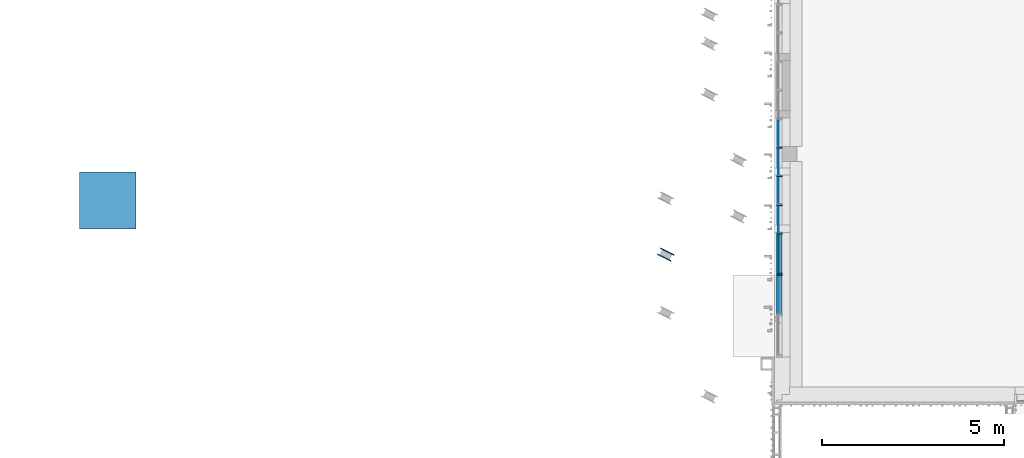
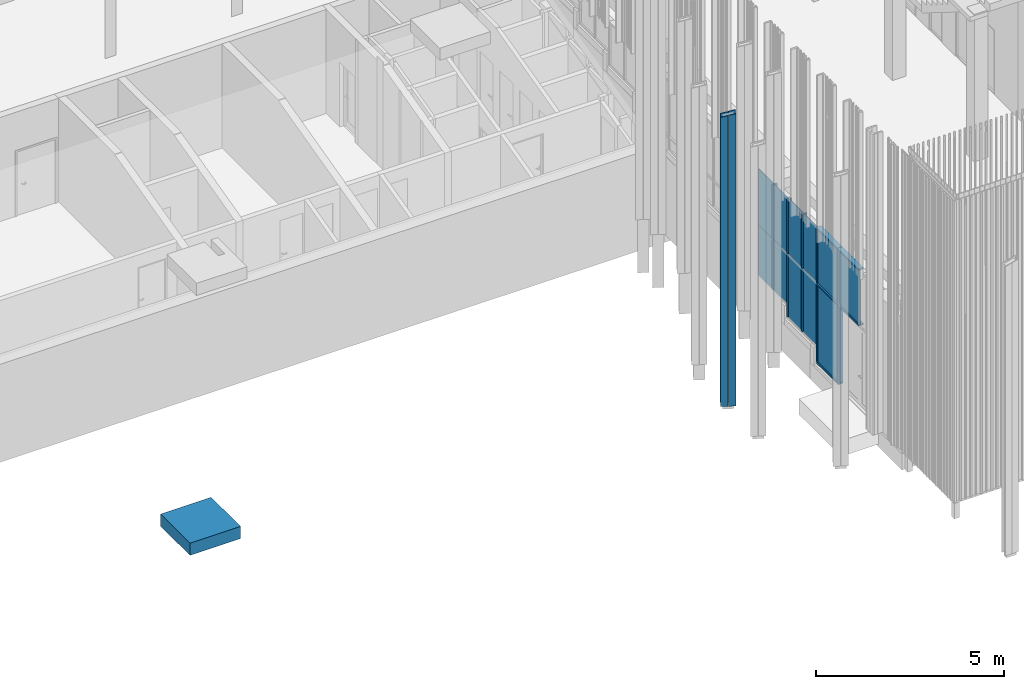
# One storey, part 30 of 390: 31 discrete accessories, 1 element without a shape of its own.
"""IFC2X3 building model written with IfcOpenShell, lengths in millimetres."""

from ifc_helpers import new_model, entity, si_unit, converted_unit, derived_unit, money_unit, direction, frame, origin_with_axes, place, context, subcontext, project, spatial, polyline, outline, extrude, faceted_brep, source, transform, mapped, material, material_list, type_object, element, aggregate, save


model = new_model("IFC2X3")

# Units and contexts
model_context = context("Model", 3, precision=1e-05, world=origin_with_axes(), true_north=direction((0.0, 1.0)))
body_context = subcontext(model_context, "Body", "Model", "MODEL_VIEW")
ifc_project = project(units=[si_unit("LENGTHUNIT", "METRE", prefix="MILLI"), si_unit("AREAUNIT", "SQUARE_METRE"), si_unit("VOLUMEUNIT", "CUBIC_METRE"), converted_unit("PLANEANGLEUNIT", "DEGREE", entity("IfcPlaneAngleMeasure", 0.0174532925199), si_unit("PLANEANGLEUNIT", "RADIAN"), dimensions=[0, 0, 0, 0, 0, 0, 0]), si_unit("SOLIDANGLEUNIT", "STERADIAN"), money_unit("EUR"), converted_unit("TIMEUNIT", "Year", entity("IfcTimeMeasure", 31556926.0), si_unit("TIMEUNIT", "SECOND"), dimensions=[0, 0, 1, 0, 0, 0, 0]), si_unit("MASSUNIT", "GRAM", prefix="KILO"), si_unit("THERMODYNAMICTEMPERATUREUNIT", "DEGREE_CELSIUS"), si_unit("LUMINOUSINTENSITYUNIT", "LUMEN"), si_unit("ENERGYUNIT", "JOULE", prefix="MEGA"), derived_unit("THERMALCONDUCTANCEUNIT", [(si_unit("POWERUNIT", "WATT"), 1), (si_unit("LENGTHUNIT", "METRE"), -1), (si_unit("THERMODYNAMICTEMPERATUREUNIT", "KELVIN"), -1)]), derived_unit("SPECIFICHEATCAPACITYUNIT", [(si_unit("ENERGYUNIT", "JOULE"), 1), (si_unit("MASSUNIT", "GRAM", prefix="KILO"), -1), (si_unit("THERMODYNAMICTEMPERATUREUNIT", "KELVIN"), -1)]), derived_unit("MASSDENSITYUNIT", [(si_unit("MASSUNIT", "GRAM", prefix="KILO"), 1), (si_unit("VOLUMEUNIT", "CUBIC_METRE"), -1)])], contexts=[model_context])

# Site, building, storey
site_placement = place(None, origin_with_axes())
site = spatial("IfcSite", under=ifc_project, at=site_placement, Name="Site", CompositionType="ELEMENT")
building_placement = place(site_placement, origin_with_axes())
building = spatial("IfcBuilding", under=site, at=building_placement, Name="Building", CompositionType="ELEMENT")
storey_placement = place(building_placement, origin_with_axes())
storey = spatial("IfcBuildingStorey", under=building, at=storey_placement, Name="1 korrus", CompositionType="ELEMENT", Elevation=0.0)

# Discrete accessories
ifc_material_1 = material(Name="GENEERILINE - VÄLINE VOODER")
discrete_accessory_type_1 = type_object("IfcDiscreteAccessoryType", Name="GENEERILINE - VÄLINE VOODER")
shared_shape_1 = source(origin_with_axes(), body_context, "Body", "Brep", [
    faceted_brep([(162190.360855, 119453.798876, 100.0), (162190.360855, 119453.798876, 9600.0), (162168.524839, 119456.480002, 9600.0), (162168.524839, 119456.480002, 100.0), (162214.734723, 119652.308107, 100.0), (162214.734723, 119652.308107, 9546.41016151), (162192.898708, 119654.989232, 9546.41016151), (162192.898708, 119654.989232, 100.0)], [[[0, 1, 2, 3]], [[1, 0, 4, 5]], [[2, 1, 5, 6]], [[3, 2, 6, 7]], [[0, 3, 7, 4]], [[7, 6, 5, 4]]]),
])
discrete_accessory_1_placement = place(storey_placement, frame((176423.819958, -144027.598652, 0.0), z_axis=(0.0, 0.0, 1.0), x_axis=(0.342020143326, 0.939692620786, 0.0)))
element("IfcDiscreteAccessory", 1, at=discrete_accessory_1_placement, inside=storey, type_object=discrete_accessory_type_1, material=ifc_material_1, Name="Päikesevarjestuspost", context=body_context, shape_type="MappedRepresentation", body=[
    mapped(shared_shape_1, transform((0.0, 0.0, 0.0))),
])
shared_shape_2 = source(origin_with_axes(), body_context, "Body", "Brep", [
    faceted_brep([(162194.117401, 119664.914694, 100.0), (162215.953417, 119662.233568, 100.0), (162215.953417, 119662.233568, 9543.73066959), (162194.117401, 119664.914694, 9543.73066959), (162218.49127, 119863.423924, 100.0), (162240.327285, 119860.742798, 100.0), (162240.327285, 119860.742798, 9490.1408311), (162218.49127, 119863.423924, 9490.1408311)], [[[0, 1, 2, 3]], [[1, 0, 4, 5]], [[2, 1, 5, 6]], [[3, 2, 6, 7]], [[0, 3, 7, 4]], [[4, 7, 6, 5]]]),
])
discrete_accessory_2_placement = place(storey_placement, frame((176423.819958, -144027.598652, 0.0), z_axis=(0.0, 0.0, 1.0), x_axis=(0.342020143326, 0.939692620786, 0.0)))
element("IfcDiscreteAccessory", 2, at=discrete_accessory_2_placement, inside=storey, type_object=discrete_accessory_type_1, material=ifc_material_1, Name="Päikesevarjestuspost", context=body_context, shape_type="MappedRepresentation", body=[
    mapped(shared_shape_2, transform((0.0, 0.0, 0.0))),
])
shared_shape_3 = source(origin_with_axes(), body_context, "Body", "Brep", [
    faceted_brep([(-162194.117401, 119664.914694, 100.0), (-162194.117401, 119664.914694, 9543.73066959), (-162215.953417, 119662.233568, 9543.73066959), (-162215.953417, 119662.233568, 100.0), (-162218.49127, 119863.423924, 100.0), (-162218.49127, 119863.423924, 9490.1408311), (-162240.327285, 119860.742798, 9490.1408311), (-162240.327285, 119860.742798, 100.0)], [[[0, 1, 2, 3]], [[0, 4, 5, 1]], [[1, 5, 6, 2]], [[2, 6, 7, 3]], [[3, 7, 4, 0]], [[4, 7, 6, 5]]]),
])
discrete_accessory_3_placement = place(storey_placement, frame((309446.361817, 117043.839524, 0.0), z_axis=(0.0, 0.0, 1.0), x_axis=(0.559192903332, 0.829037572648, 0.0)))
element("IfcDiscreteAccessory", 3, at=discrete_accessory_3_placement, inside=storey, type_object=discrete_accessory_type_1, material=ifc_material_1, Name="Päikesevarjestuspost", context=body_context, shape_type="MappedRepresentation", body=[
    mapped(shared_shape_3, transform((0.0, 0.0, 0.0))),
])
shared_shape_4 = source(origin_with_axes(), body_context, "Body", "Brep", [
    faceted_brep([(-162190.360855, 119453.798876, 100.0), (-162168.524839, 119456.480002, 100.0), (-162168.524839, 119456.480002, 9600.0), (-162190.360855, 119453.798876, 9600.0), (-162214.734723, 119652.308107, 100.0), (-162192.898708, 119654.989232, 100.0), (-162192.898708, 119654.989232, 9546.41016151), (-162214.734723, 119652.308107, 9546.41016151)], [[[0, 1, 2, 3]], [[0, 4, 5, 1]], [[1, 5, 6, 2]], [[2, 6, 7, 3]], [[3, 7, 4, 0]], [[5, 4, 7, 6]]]),
])
discrete_accessory_4_placement = place(storey_placement, frame((309446.361817, 117043.839524, 0.0), z_axis=(0.0, 0.0, 1.0), x_axis=(0.559192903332, 0.829037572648, 0.0)))
element("IfcDiscreteAccessory", 4, at=discrete_accessory_4_placement, inside=storey, type_object=discrete_accessory_type_1, material=ifc_material_1, Name="Päikesevarjestuspost", context=body_context, shape_type="MappedRepresentation", body=[
    mapped(shared_shape_4, transform((0.0, 0.0, 0.0))),
])

# Curtain wall, discrete accessories
curtain_wall_type = type_object("IfcCurtainWallType", Name="KLF-14", PredefinedType="NOTDEFINED")
curtain_wall_placement = place(storey_placement, frame((122599.999993, 59672.5295083, -0.000201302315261), z_axis=(0.0, 0.0, 1.0), x_axis=(1.0, 0.0, 0.0)))
curtain_wall = element("IfcCurtainWall", 5, at=curtain_wall_placement, inside=storey, type_object=curtain_wall_type, Name="Klaasfassaad")
ifc_material_2 = material(Name="Klaas")
discrete_accessory_type_2 = type_object("IfcDiscreteAccessoryType", Name="Distinct Panel 785 x 1820 x 20")
discrete_accessory_5_placement = place(curtain_wall_placement, frame((1.31331034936e-06, -7717.0295103, 3504.99999553), z_axis=(0.0, 0.0, 1.0), x_axis=(1.7016819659e-10, -1.0, 0.0)))
discrete_accessory_5 = element("IfcDiscreteAccessory", 6, at=discrete_accessory_5_placement, type_object=discrete_accessory_type_2, material=ifc_material_2, Name="KLF-14 klaaspakett", context=body_context, shape_type="SweptSolid", body=[
    extrude(outline(polyline([(-392.500011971, -899.999855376), (392.499997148, -899.999855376), (392.499997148, 919.999866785), (-392.500011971, 919.999866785), (-392.500011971, -899.999855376)])), frame((0.0, -10.0, 0.0), z_axis=(0.0, 1.0, 0.0), x_axis=(1.0, 0.0, 0.0)), (0.0, 0.0, 1.0), 20.0),
])
discrete_accessory_6_placement = place(curtain_wall_placement, frame((1.58134128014e-06, -9292.0295103, 3504.99999553), z_axis=(0.0, 0.0, 1.0), x_axis=(1.70186299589e-10, -1.0, 0.0)))
discrete_accessory_6 = element("IfcDiscreteAccessory", 7, at=discrete_accessory_6_placement, type_object=discrete_accessory_type_2, material=ifc_material_2, Name="KLF-14 klaaspakett", context=body_context, shape_type="SweptSolid", body=[
    extrude(outline(polyline([(-392.500011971, -899.999855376), (392.499997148, -899.999855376), (392.499997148, 919.999866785), (-392.500011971, 919.999866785), (-392.500011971, -899.999855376)])), frame((0.0, -10.0, 0.0), z_axis=(0.0, 1.0, 0.0), x_axis=(1.0, 0.0, 0.0)), (0.0, 0.0, 1.0), 20.0),
])
discrete_accessory_type_3 = type_object("IfcDiscreteAccessoryType", Name="Distinct Panel 785 x 2055 x 20")
discrete_accessory_7_placement = place(curtain_wall_placement, frame((1.34016886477e-06, -7875.00008935, 1220.00020631), z_axis=(0.0, 0.0, 1.0), x_axis=(1.7016819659e-10, -1.0, 0.0)))
discrete_accessory_7 = element("IfcDiscreteAccessory", 8, at=discrete_accessory_7_placement, type_object=discrete_accessory_type_3, material=ifc_material_2, Name="KLF-14 klaaspakett", context=body_context, shape_type="SweptSolid", body=[
    extrude(outline(polyline([(-550.470573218, -1364.99992976), (234.529419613, -1364.99992976), (234.529419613, 689.99999968), (229.960720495, 689.99999968), (229.960720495, 280.000014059), (-550.470573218, 280.000014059), (-550.470573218, -1364.99992976)])), frame((0.0, -10.0, 0.0), z_axis=(0.0, 1.0, 0.0), x_axis=(1.0, 0.0, 0.0)), (0.0, 0.0, 1.0), 20.0),
])
discrete_accessory_type_4 = type_object("IfcDiscreteAccessoryType", Name="Distinct Panel 785 x 2565 x 20")
discrete_accessory_8_placement = place(curtain_wall_placement, frame((1.60822821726e-06, -9450.00002476, 884.285825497), z_axis=(0.0, 0.0, 1.0), x_axis=(1.70186299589e-10, -1.0, 0.0)))
discrete_accessory_8 = element("IfcDiscreteAccessory", 9, at=discrete_accessory_8_placement, type_object=discrete_accessory_type_4, material=ifc_material_2, Name="KLF-14 klaaspakett", context=body_context, shape_type="SweptSolid", body=[
    extrude(outline(polyline([(-550.470502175, -1700.71430325), (234.529495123, -1700.71430325), (234.529495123, 864.28582532), (229.960615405, 864.28582532), (229.960615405, 354.285416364), (-550.470502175, 354.285686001), (-550.470502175, -1700.71430325)])), frame((0.0, -10.0, 0.0), z_axis=(0.0, 1.0, 0.0), x_axis=(1.0, 0.0, 0.0)), (0.0, 0.0, 1.0), 20.0),
])
discrete_accessory_type_5 = type_object("IfcDiscreteAccessoryType", Name="Distinct Panel 790 x 1820 x 20")
discrete_accessory_9_placement = place(curtain_wall_placement, frame((1.44733292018e-06, -8504.5295103, 3504.99999553), z_axis=(0.0, 0.0, 1.0), x_axis=(1.70188476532e-10, -1.0, 0.0)))
discrete_accessory_9 = element("IfcDiscreteAccessory", 10, at=discrete_accessory_9_placement, type_object=discrete_accessory_type_5, material=ifc_material_2, Name="KLF-14 klaaspakett", context=body_context, shape_type="SweptSolid", body=[
    extrude(outline(polyline([(-395.000014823, -899.999855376), (394.999997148, -899.999855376), (394.999997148, 919.999866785), (-394.999987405, 919.999866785), (-395.000014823, -899.999855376)])), frame((0.0, -10.0, 0.0), z_axis=(0.0, 1.0, 0.0), x_axis=(1.0, 0.0, 0.0)), (0.0, 0.0, 1.0), 20.0),
])
discrete_accessory_10_placement = place(curtain_wall_placement, frame((1.1793019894e-06, -6929.5295103, 3504.99999553), z_axis=(0.0, 0.0, 1.0), x_axis=(1.70188476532e-10, -1.0, 0.0)))
discrete_accessory_10 = element("IfcDiscreteAccessory", 11, at=discrete_accessory_10_placement, type_object=discrete_accessory_type_5, material=ifc_material_2, Name="KLF-14 klaaspakett", context=body_context, shape_type="SweptSolid", body=[
    extrude(outline(polyline([(-395.000014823, -899.999855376), (394.999997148, -899.999855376), (394.999997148, 919.999866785), (-394.999987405, 919.999866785), (-395.000014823, -899.999855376)])), frame((0.0, -10.0, 0.0), z_axis=(0.0, 1.0, 0.0), x_axis=(1.0, 0.0, 0.0)), (0.0, 0.0, 1.0), 20.0),
])
discrete_accessory_type_6 = type_object("IfcDiscreteAccessoryType", Name="Distinct Panel 790 x 2055 x 20")
discrete_accessory_11_placement = place(curtain_wall_placement, frame((1.46000900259e-06, -8578.987063, 1340.00015829), z_axis=(0.0, 0.0, 1.0), x_axis=(1.70188476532e-10, -1.0, 0.0)))
discrete_accessory_11 = element("IfcDiscreteAccessory", 12, at=discrete_accessory_11_placement, type_object=discrete_accessory_type_6, material=ifc_material_2, Name="KLF-14 klaaspakett", context=body_context, shape_type="SweptSolid", body=[
    extrude(outline(polyline([(-469.457549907, -1244.99997761), (320.542445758, -1244.99997761), (320.542445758, 810.000036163), (-469.457549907, 809.999974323), (-469.457549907, -1244.99997761)])), frame((0.0, -10.0, 0.0), z_axis=(0.0, 1.0, 0.0), x_axis=(1.0, 0.0, 0.0)), (0.0, 0.0, 1.0), 20.0),
])
discrete_accessory_type_7 = type_object("IfcDiscreteAccessoryType", Name="Distinct Panel 1125 x 1820 x 20")
discrete_accessory_12_placement = place(curtain_wall_placement, frame((1.74387082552e-06, -10247.0295103, 3504.99999553), z_axis=(0.0, 0.0, 1.0), x_axis=(1.70176564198e-10, -1.0, 0.0)))
discrete_accessory_12 = element("IfcDiscreteAccessory", 13, at=discrete_accessory_12_placement, type_object=discrete_accessory_type_7, material=ifc_material_2, Name="KLF-14 klaaspakett", context=body_context, shape_type="SweptSolid", body=[
    extrude(outline(polyline([(-562.500013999, -899.999855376), (562.499997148, -899.999855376), (562.499997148, 919.999866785), (-562.499986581, 919.999866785), (-562.500013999, -899.999855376)])), frame((0.0, -10.0, 0.0), z_axis=(0.0, 1.0, 0.0), x_axis=(1.0, 0.0, 0.0)), (0.0, 0.0, 1.0), 20.0),
])
discrete_accessory_type_8 = type_object("IfcDiscreteAccessoryType", Name="Distinct Panel 1125 x 2565 x 20")
discrete_accessory_13_placement = place(curtain_wall_placement, frame((1.74387082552e-06, -10247.0295103, 1292.50006437), z_axis=(0.0, 0.0, 1.0), x_axis=(1.70176564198e-10, -1.0, 0.0)))
discrete_accessory_13 = element("IfcDiscreteAccessory", 14, at=discrete_accessory_13_placement, type_object=discrete_accessory_type_8, material=ifc_material_2, Name="KLF-14 klaaspakett", context=body_context, shape_type="SweptSolid", body=[
    extrude(outline(polyline([(-562.499990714, -1292.50006437), (562.500009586, -1292.50006437), (562.500009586, 1272.5000642), (-562.499990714, 1272.5000642), (-562.499990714, -1292.50006437)])), frame((0.0, -10.0, 0.0), z_axis=(0.0, 1.0, 0.0), x_axis=(1.0, 0.0, 0.0)), (0.0, 0.0, 1.0), 20.0),
])
discrete_accessory_type_9 = type_object("IfcDiscreteAccessoryType", Name="Distinct Panel 790 x 1645 x 20")
discrete_accessory_14_placement = place(curtain_wall_placement, frame((1.19194965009e-06, -7003.98706668, 1586.0001611), z_axis=(0.0, 0.0, 1.0), x_axis=(1.70188476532e-10, -1.0, 0.0)))
discrete_accessory_14 = element("IfcDiscreteAccessory", 15, at=discrete_accessory_14_placement, type_object=discrete_accessory_type_9, material=ifc_material_2, Name="KLF-14 klaaspakett", context=body_context, shape_type="SweptSolid", body=[
    extrude(outline(polyline([(-469.457546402, -998.999967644), (320.542441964, -998.999967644), (320.542441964, 645.999956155), (-469.457546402, 645.999980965), (-469.457546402, -998.999967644)])), frame((0.0, -9.99999999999, 0.0), z_axis=(0.0, 1.0, 0.0), x_axis=(1.0, 0.0, 0.0)), (0.0, 0.0, 1.0), 20.0),
])
discrete_accessory_type_10 = type_object("IfcDiscreteAccessoryType", Name="Distinct Panel 1119 x 1820 x 20")
discrete_accessory_15_placement = place(curtain_wall_placement, frame((1.93479365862e-06, -11368.9795032, 3504.99999553), z_axis=(0.0, 0.0, 1.0), x_axis=(1.70180287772e-10, -1.0, 0.0)))
discrete_accessory_15 = element("IfcDiscreteAccessory", 16, at=discrete_accessory_15_placement, type_object=discrete_accessory_type_10, material=ifc_material_2, Name="KLF-14 klaaspakett", context=body_context, shape_type="SweptSolid", body=[
    extrude(outline(polyline([(-559.450001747, -899.999855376), (559.449990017, -899.999855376), (559.449990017, 919.999866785), (-559.450001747, 919.999866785), (-559.450001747, -899.999855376)])), frame((0.0, -9.99999999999, 0.0), z_axis=(0.0, 1.0, 0.0), x_axis=(1.0, 0.0, 0.0)), (0.0, 0.0, 1.0), 20.0),
])
ifc_material_3 = material(Name="Aluminium MUST")
ifc_material_list_1 = material_list([ifc_material_3, ifc_material_3])
discrete_accessory_type_11 = type_object("IfcDiscreteAccessoryType", Name="50 x 150")
discrete_accessory_16_placement = place(curtain_wall_placement, frame((1.2465193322e-06, -7324.5295103, 2585.00012874), z_axis=(0.0, 0.0, 1.0), x_axis=(1.70178336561e-10, -1.0, 0.0)))
discrete_accessory_16 = element("IfcDiscreteAccessory", 17, at=discrete_accessory_16_placement, type_object=discrete_accessory_type_11, material=ifc_material_list_1, Name="KLF-14 profiil", context=body_context, shape_type="SweptSolid", body=[
    extrude(outline(polyline([(100.000000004, -24.999999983), (99.9999999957, 25.000000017), (9.99999999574, 25.0000000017), (10.0000000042, -24.9999999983), (100.000000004, -24.999999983)])), frame((0.0, 0.0, 25.0), z_axis=(0.0, 0.0, 1.0), x_axis=(1.70178336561e-10, 1.0, 0.0)), (0.0, 0.0, 1.0), 1764.99973357),
    extrude(outline(polyline([(-50.0000000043, 24.9999999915), (-49.9999999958, -25.0000000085), (-9.99999999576, -25.0000000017), (-10.0000000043, 24.9999999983), (-50.0000000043, 24.9999999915)])), frame((0.0, 0.0, 25.0), z_axis=(0.0, 0.0, 1.0), x_axis=(1.70178336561e-10, 1.0, 0.0)), (0.0, 0.0, 1.0), 1764.99973357),
])
discrete_accessory_17_placement = place(curtain_wall_placement, frame((1.64814650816e-06, -9684.5295103, 2585.00012874), z_axis=(0.0, 0.0, 1.0), x_axis=(1.70181431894e-10, -1.0, 0.0)))
discrete_accessory_17 = element("IfcDiscreteAccessory", 18, at=discrete_accessory_17_placement, type_object=discrete_accessory_type_11, material=ifc_material_list_1, Name="KLF-14 profiil", context=body_context, shape_type="SweptSolid", body=[
    extrude(outline(polyline([(100.000000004, -24.999999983), (99.9999999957, 25.000000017), (9.99999999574, 25.0000000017), (10.0000000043, -24.9999999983), (100.000000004, -24.999999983)])), frame((0.0, 0.0, 25.0), z_axis=(0.0, 0.0, 1.0), x_axis=(1.70181431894e-10, 1.0, 0.0)), (0.0, 0.0, 1.0), 1764.99973357),
    extrude(outline(polyline([(-50.0000000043, 24.9999999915), (-49.9999999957, -25.0000000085), (-9.99999999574, -25.0000000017), (-10.0000000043, 24.9999999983), (-50.0000000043, 24.9999999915)])), frame((0.0, 0.0, 25.0), z_axis=(0.0, 0.0, 1.0), x_axis=(1.70181431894e-10, 1.0, 0.0)), (0.0, 0.0, 1.0), 1764.99973357),
])
discrete_accessory_18_placement = place(curtain_wall_placement, frame((1.83959514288e-06, -10809.5295103, 0.0), z_axis=(0.0, 0.0, 1.0), x_axis=(1.70179285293e-10, -1.0, 0.0)))
discrete_accessory_18 = element("IfcDiscreteAccessory", 19, at=discrete_accessory_18_placement, type_object=discrete_accessory_type_11, material=ifc_material_list_1, Name="KLF-14 profiil", context=body_context, shape_type="SweptSolid", body=[
    extrude(outline(polyline([(100.000000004, -24.999999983), (99.9999999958, 25.000000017), (9.99999999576, 25.0000000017), (10.0000000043, -24.9999999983), (100.000000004, -24.999999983)])), frame((0.0, 0.0, 50.0), z_axis=(0.0, 0.0, 1.0), x_axis=(1.70179285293e-10, 1.0, 0.0)), (0.0, 0.0, 1.0), 2510.00012874),
    extrude(outline(polyline([(-50.0000000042, 24.9999999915), (-49.9999999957, -25.0000000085), (-9.99999999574, -25.0000000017), (-10.0000000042, 24.9999999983), (-50.0000000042, 24.9999999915)])), frame((0.0, 0.0, 50.0), z_axis=(0.0, 0.0, 1.0), x_axis=(1.70179285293e-10, 1.0, 0.0)), (0.0, 0.0, 1.0), 2510.00012874),
])
discrete_accessory_19_placement = place(curtain_wall_placement, frame((1.64814650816e-06, -9684.5295103, 0.0), z_axis=(0.0, 0.0, 1.0), x_axis=(1.70181431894e-10, -1.0, 0.0)))
discrete_accessory_19 = element("IfcDiscreteAccessory", 20, at=discrete_accessory_19_placement, type_object=discrete_accessory_type_11, material=ifc_material_list_1, Name="KLF-14 profiil", context=body_context, shape_type="SweptSolid", body=[
    extrude(outline(polyline([(100.000000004, -24.999999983), (99.9999999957, 25.000000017), (9.99999999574, 25.0000000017), (10.0000000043, -24.9999999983), (100.000000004, -24.999999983)])), frame((0.0, 0.0, 50.0), z_axis=(0.0, 0.0, 1.0), x_axis=(1.70181431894e-10, 1.0, 0.0)), (0.0, 0.0, 1.0), 2510.00012874),
    extrude(outline(polyline([(-50.0000000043, 24.9999999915), (-49.9999999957, -25.0000000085), (-9.99999999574, -25.0000000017), (-10.0000000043, 24.9999999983), (-50.0000000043, 24.9999999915)])), frame((0.0, 0.0, 50.0), z_axis=(0.0, 0.0, 1.0), x_axis=(1.70181431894e-10, 1.0, 0.0)), (0.0, 0.0, 1.0), 2510.00012874),
])
discrete_accessory_20_placement = place(curtain_wall_placement, frame((1.51455026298e-06, -8899.5295103, 510.000131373), z_axis=(0.0, 0.0, 1.0), x_axis=(1.70187388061e-10, -1.0, 0.0)))
discrete_accessory_20 = element("IfcDiscreteAccessory", 21, at=discrete_accessory_20_placement, type_object=discrete_accessory_type_11, material=ifc_material_list_1, Name="KLF-14 profiil", context=body_context, shape_type="SweptSolid", body=[
    extrude(outline(polyline([(100.000000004, -24.999999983), (99.9999999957, 25.000000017), (9.99999999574, 25.0000000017), (10.0000000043, -24.9999999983), (100.000000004, -24.999999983)])), frame((0.0, 0.0, 50.000003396), z_axis=(0.0, 0.0, 1.0), x_axis=(1.70187388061e-10, 1.0, 0.0)), (0.0, 0.0, 1.0), 1999.99999398),
    extrude(outline(polyline([(-50.0000000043, 24.9999999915), (-49.9999999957, -25.0000000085), (-9.99999999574, -25.0000000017), (-10.0000000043, 24.9999999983), (-50.0000000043, 24.9999999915)])), frame((0.0, 0.0, 49.9999830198), z_axis=(0.0, 0.0, 1.0), x_axis=(1.70187388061e-10, 1.0, 0.0)), (0.0, 0.0, 1.0), 2000.00001435),
])
discrete_accessory_21_placement = place(curtain_wall_placement, frame((1.38010136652e-06, -8109.5295103, 510.000201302), z_axis=(0.0, 0.0, 1.0), x_axis=(1.70178336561e-10, -1.0, 0.0)))
discrete_accessory_21 = element("IfcDiscreteAccessory", 22, at=discrete_accessory_21_placement, type_object=discrete_accessory_type_11, material=ifc_material_list_1, Name="KLF-14 profiil", context=body_context, shape_type="SweptSolid", body=[
    extrude(outline(polyline([(100.000000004, -24.999999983), (99.9999999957, 25.000000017), (9.99999999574, 25.0000000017), (10.0000000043, -24.9999999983), (100.000000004, -24.999999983)])), frame((0.0, 0.0, 50.0), z_axis=(0.0, 0.0, 1.0), x_axis=(1.70178336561e-10, 1.0, 0.0)), (0.0, 0.0, 1.0), 1999.99992744),
    extrude(outline(polyline([(-50.0000000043, 24.9999999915), (-49.9999999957, -25.0000000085), (-9.99999999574, -25.0000000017), (-10.0000000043, 24.9999999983), (-50.0000000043, 24.9999999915)])), frame((0.0, 0.0, 50.0), z_axis=(0.0, 0.0, 1.0), x_axis=(1.70178336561e-10, 1.0, 0.0)), (0.0, 0.0, 1.0), 1999.99992744),
])
discrete_accessory_22_placement = place(curtain_wall_placement, frame((1.2465193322e-06, -7324.5295103, 920.000200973), z_axis=(0.0, 0.0, 1.0), x_axis=(1.70178336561e-10, -1.0, 0.0)))
discrete_accessory_22 = element("IfcDiscreteAccessory", 23, at=discrete_accessory_22_placement, type_object=discrete_accessory_type_11, material=ifc_material_list_1, Name="KLF-14 profiil", context=body_context, shape_type="SweptSolid", body=[
    extrude(outline(polyline([(100.000000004, -24.999999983), (99.9999999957, 25.000000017), (9.99999999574, 25.0000000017), (10.0000000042, -24.9999999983), (100.000000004, -24.999999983)])), frame((0.0, 0.0, 50.0000000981), z_axis=(0.0, 0.0, 1.0), x_axis=(1.70178336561e-10, 1.0, 0.0)), (0.0, 0.0, 1.0), 1589.99992767),
    extrude(outline(polyline([(-50.0000000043, 24.9999999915), (-49.9999999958, -25.0000000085), (-9.99999999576, -25.0000000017), (-10.0000000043, 24.9999999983), (-50.0000000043, 24.9999999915)])), frame((0.0, 0.0, 49.9999995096), z_axis=(0.0, 0.0, 1.0), x_axis=(1.70178336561e-10, 1.0, 0.0)), (0.0, 0.0, 1.0), 1589.99992826),
])
discrete_accessory_23_placement = place(curtain_wall_placement, frame((1.51455026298e-06, -8899.5295103, 2585.00012874), z_axis=(0.0, 0.0, 1.0), x_axis=(1.70187388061e-10, -1.0, 0.0)))
discrete_accessory_23 = element("IfcDiscreteAccessory", 24, at=discrete_accessory_23_placement, type_object=discrete_accessory_type_11, material=ifc_material_list_1, Name="KLF-14 profiil", context=body_context, shape_type="SweptSolid", body=[
    extrude(outline(polyline([(100.000000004, -24.999999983), (99.9999999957, 25.000000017), (9.99999999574, 25.0000000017), (10.0000000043, -24.9999999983), (100.000000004, -24.999999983)])), frame((0.0, 0.0, 25.0), z_axis=(0.0, 0.0, 1.0), x_axis=(1.70187388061e-10, 1.0, 0.0)), (0.0, 0.0, 1.0), 1764.99973357),
    extrude(outline(polyline([(-50.0000000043, 24.9999999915), (-49.9999999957, -25.0000000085), (-9.99999999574, -25.0000000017), (-10.0000000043, 24.9999999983), (-50.0000000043, 24.9999999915)])), frame((0.0, 0.0, 25.0), z_axis=(0.0, 0.0, 1.0), x_axis=(1.70187388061e-10, 1.0, 0.0)), (0.0, 0.0, 1.0), 1764.99973357),
])
ifc_material_list_2 = material_list([ifc_material_3, ifc_material_3, ifc_material_3])
discrete_accessory_24_placement = place(curtain_wall_placement, frame((1.83959514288e-06, -10809.5295103, 0.0), z_axis=(-1.70176564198e-10, 1.0, 0.0), x_axis=(0.0, 0.0, 1.0)))
discrete_accessory_24 = element("IfcDiscreteAccessory", 25, at=discrete_accessory_24_placement, type_object=discrete_accessory_type_11, material=ifc_material_list_2, Name="KLF-14 profiil", context=body_context, shape_type="SweptSolid", body=[
    extrude(outline(polyline([(10.0000001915, -25.0), (10.0000001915, 0.0), (-9.99999980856, 0.0), (-9.99999980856, -25.0), (10.0000001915, -25.0)])), frame((0.0, 0.0, -25.0000000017), z_axis=(0.0, 0.0, 1.0), x_axis=(0.0, 1.0, 0.0)), (0.0, 0.0, 1.0), 1150.0),
    extrude(outline(polyline([(100.000000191, -50.0), (100.000000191, 0.0), (10.0000001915, 0.0), (10.0000001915, -50.0), (100.000000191, -50.0)])), frame((0.0, 0.0, -25.000000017), z_axis=(0.0, 0.0, 1.0), x_axis=(0.0, 1.0, 0.0)), (0.0, 0.0, 1.0), 1150.00000002),
    extrude(outline(polyline([(-49.9999998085, 0.0), (-49.9999998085, -50.0), (-9.99999980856, -50.0), (-9.99999980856, 0.0), (-49.9999998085, 0.0)])), frame((0.0, 0.0, -24.9999999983), z_axis=(0.0, 0.0, 1.0), x_axis=(0.0, 1.0, 0.0)), (0.0, 0.0, 1.0), 1150.00000001),
])
discrete_accessory_25_placement = place(curtain_wall_placement, frame((1.38010136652e-06, -8109.5295103, 2585.00012874), z_axis=(0.0, 0.0, 1.0), x_axis=(1.70178336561e-10, -1.0, 0.0)))
discrete_accessory_25 = element("IfcDiscreteAccessory", 26, at=discrete_accessory_25_placement, type_object=discrete_accessory_type_11, material=ifc_material_list_1, Name="KLF-14 profiil", context=body_context, shape_type="SweptSolid", body=[
    extrude(outline(polyline([(100.000000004, -24.999999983), (99.9999999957, 25.000000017), (9.99999999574, 25.0000000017), (10.0000000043, -24.9999999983), (100.000000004, -24.999999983)])), frame((0.0, 0.0, 25.0), z_axis=(0.0, 0.0, 1.0), x_axis=(1.70178336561e-10, 1.0, 0.0)), (0.0, 0.0, 1.0), 1764.99973357),
    extrude(outline(polyline([(-50.0000000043, 24.9999999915), (-49.9999999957, -25.0000000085), (-9.99999999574, -25.0000000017), (-10.0000000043, 24.9999999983), (-50.0000000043, 24.9999999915)])), frame((0.0, 0.0, 25.0), z_axis=(0.0, 0.0, 1.0), x_axis=(1.70178336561e-10, 1.0, 0.0)), (0.0, 0.0, 1.0), 1764.99973357),
])
discrete_accessory_26_placement = place(curtain_wall_placement, frame((1.83959514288e-06, -10809.5295103, 2585.00012874), z_axis=(-1.70176564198e-10, 1.0, 0.0), x_axis=(0.0, 0.0, 1.0)))
discrete_accessory_26 = element("IfcDiscreteAccessory", 27, at=discrete_accessory_26_placement, type_object=discrete_accessory_type_11, material=ifc_material_list_1, Name="KLF-14 profiil", context=body_context, shape_type="SweptSolid", body=[
    extrude(outline(polyline([(100.000000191, -25.0), (100.000000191, 25.0), (10.0000001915, 25.0), (10.0000001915, -25.0), (100.000000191, -25.0)])), frame((0.0, 0.0, -1.70174985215e-08), z_axis=(0.0, 0.0, 1.0), x_axis=(0.0, 1.0, 0.0)), (0.0, 0.0, 1.0), 1125.00000002),
    extrude(outline(polyline([(-49.9999998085, 25.0), (-49.9999998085, -25.0), (-9.99999980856, -25.0), (-9.99999980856, 25.0), (-49.9999998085, 25.0)])), frame((0.0, 0.0, 1.69109171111e-09), z_axis=(0.0, 0.0, 1.0), x_axis=(0.0, 1.0, 0.0)), (0.0, 0.0, 1.0), 1125.00000001),
])
discrete_accessory_27_placement = place(curtain_wall_placement, frame((1.64814650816e-06, -9684.5295103, 4424.99986231), z_axis=(1.70176564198e-10, -1.0, 0.0), x_axis=(0.0, 0.0, -1.0)))
discrete_accessory_27 = element("IfcDiscreteAccessory", 28, at=discrete_accessory_27_placement, type_object=discrete_accessory_type_11, material=ifc_material_list_2, Name="KLF-14 profiil", context=body_context, shape_type="SweptSolid", body=[
    extrude(outline(polyline([(-9.99999980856, 25.0), (-9.99999980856, 0.0), (10.0000001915, 0.0), (10.0000001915, 25.0), (-9.99999980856, 25.0)])), frame((0.0, 0.0, -1.69109171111e-09), z_axis=(0.0, 0.0, 1.0), x_axis=(0.0, -1.0, 0.0)), (0.0, 0.0, 1.0), 1125.0),
    extrude(outline(polyline([(-99.9999998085, 50.0), (-99.9999998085, 0.0), (-9.99999980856, 0.0), (-9.99999980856, 50.0), (-99.9999998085, 50.0)])), frame((0.0, 0.0, 1.70530256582e-09), z_axis=(0.0, 0.0, 1.0), x_axis=(0.0, -1.0, 0.0)), (0.0, 0.0, 1.0), 1125.00000002),
    extrude(outline(polyline([(50.0000001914, 0.0), (50.0000001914, 50.0), (10.0000001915, 50.0), (10.0000001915, 0.0), (50.0000001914, 0.0)])), frame((0.0, 0.0, -8.49809111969e-09), z_axis=(0.0, 0.0, 1.0), x_axis=(0.0, -1.0, 0.0)), (0.0, 0.0, 1.0), 1125.00000001),
])
discrete_accessory_28_placement = place(curtain_wall_placement, frame((1.83959514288e-06, -10809.5295103, 2585.00012874), z_axis=(0.0, 0.0, 1.0), x_axis=(1.70178425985e-10, -1.0, 0.0)))
discrete_accessory_28 = element("IfcDiscreteAccessory", 29, at=discrete_accessory_28_placement, type_object=discrete_accessory_type_11, material=ifc_material_list_1, Name="KLF-14 profiil", context=body_context, shape_type="SweptSolid", body=[
    extrude(outline(polyline([(100.000000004, -24.999999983), (99.9999999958, 25.000000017), (9.99999999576, 25.0000000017), (10.0000000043, -24.9999999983), (100.000000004, -24.999999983)])), frame((0.0, 0.0, 25.0), z_axis=(0.0, 0.0, 1.0), x_axis=(1.70178425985e-10, 1.0, 0.0)), (0.0, 0.0, 1.0), 1764.99973357),
    extrude(outline(polyline([(-50.0000000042, 24.9999999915), (-49.9999999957, -25.0000000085), (-9.99999999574, -25.0000000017), (-10.0000000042, 24.9999999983), (-50.0000000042, 24.9999999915)])), frame((0.0, 0.0, 25.0), z_axis=(0.0, 0.0, 1.0), x_axis=(1.70178425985e-10, 1.0, 0.0)), (0.0, 0.0, 1.0), 1764.99973357),
])
discrete_accessory_29_placement = place(curtain_wall_placement, frame((1.83959514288e-06, -10809.5295103, 4424.99986231), z_axis=(1.70177178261e-10, -1.0, 0.0), x_axis=(0.0, 0.0, -1.0)))
discrete_accessory_29 = element("IfcDiscreteAccessory", 30, at=discrete_accessory_29_placement, type_object=discrete_accessory_type_11, material=ifc_material_list_2, Name="KLF-14 profiil", context=body_context, shape_type="SweptSolid", body=[
    extrude(outline(polyline([(-9.99999980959, 25.0), (-9.99999980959, 0.0), (10.0000001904, 0.0), (10.0000001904, 25.0), (-9.99999980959, 25.0)])), frame((0.0, 0.0, -1.70530256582e-09), z_axis=(0.0, 0.0, 1.0), x_axis=(0.0, -1.0, 0.0)), (0.0, 0.0, 1.0), 1118.89998574),
    extrude(outline(polyline([(-99.9999998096, 50.0), (-99.9999998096, 0.0), (-9.99999980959, 0.0), (-9.99999980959, 50.0), (-99.9999998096, 50.0)])), frame((0.0, 0.0, 1.69109171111e-09), z_axis=(0.0, 0.0, 1.0), x_axis=(0.0, -1.0, 0.0)), (0.0, 0.0, 1.0), 1118.89998575),
    extrude(outline(polyline([(50.0000001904, 0.0), (50.0000001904, 50.0), (10.0000001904, 50.0), (10.0000001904, 0.0), (50.0000001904, 0.0)])), frame((0.0, 0.0, -8.51230197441e-09), z_axis=(0.0, 0.0, 1.0), x_axis=(0.0, -1.0, 0.0)), (0.0, 0.0, 1.0), 1118.89998575),
])
discrete_accessory_30_placement = place(curtain_wall_placement, frame((2.03000638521e-06, -11928.429496, 2585.00012874), z_axis=(-1.70177178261e-10, 1.0, 0.0), x_axis=(0.0, 0.0, 1.0)))
discrete_accessory_30 = element("IfcDiscreteAccessory", 31, at=discrete_accessory_30_placement, type_object=discrete_accessory_type_11, material=ifc_material_list_1, Name="KLF-14 profiil", context=body_context, shape_type="SweptSolid", body=[
    extrude(outline(polyline([(100.00000019, -25.0), (100.00000019, 25.0), (10.0000001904, 25.0), (10.0000001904, -25.0), (100.00000019, -25.0)])), frame((0.0, 0.0, -1.70174985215e-08), z_axis=(0.0, 0.0, 1.0), x_axis=(0.0, 1.0, 0.0)), (0.0, 0.0, 1.0), 1118.89998575),
    extrude(outline(polyline([(-49.9999998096, 25.0), (-49.9999998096, -25.0), (-9.99999980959, -25.0), (-9.99999980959, 25.0), (-49.9999998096, 25.0)])), frame((0.0, 0.0, 1.70530256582e-09), z_axis=(0.0, 0.0, 1.0), x_axis=(0.0, 1.0, 0.0)), (0.0, 0.0, 1.0), 1118.89998575),
])
aggregate(curtain_wall, [discrete_accessory_7, discrete_accessory_8, discrete_accessory_9, discrete_accessory_5, discrete_accessory_11, discrete_accessory_6, discrete_accessory_12, discrete_accessory_13, discrete_accessory_10, discrete_accessory_14, discrete_accessory_15, discrete_accessory_16, discrete_accessory_17, discrete_accessory_18, discrete_accessory_19, discrete_accessory_20, discrete_accessory_21, discrete_accessory_22, discrete_accessory_23, discrete_accessory_24, discrete_accessory_25, discrete_accessory_26, discrete_accessory_27, discrete_accessory_28, discrete_accessory_29, discrete_accessory_30])

# Discrete accessory
ifc_material_4 = material(Name="Teras (musta värvi)")
discrete_accessory_type_12 = type_object("IfcDiscreteAccessoryType", Name="Teras (musta värvi) 395")
discrete_accessory_31_placement = place(storey_placement, frame((103374.341569, 51671.4692775, 800.236759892), z_axis=(0.0, 0.0, 1.0), x_axis=(1.0, 0.0, 0.0)))
element("IfcDiscreteAccessory", 32, at=discrete_accessory_31_placement, inside=storey, type_object=discrete_accessory_type_12, material=ifc_material_4, Name="Kasvumuld", context=body_context, shape_type="SweptSolid", body=[
    extrude(outline(polyline([(0.0, 0.0), (0.0, -1563.99774399), (1555.0, -1563.99774399), (1555.0, 0.0), (0.0, 0.0)])), frame((0.0, 0.0, -395.0), z_axis=(0.0, 0.0, 1.0), x_axis=(1.0, 0.0, 0.0)), (0.0, 0.0, 1.0), 395.0),
])

save(model, "model.ifc")
